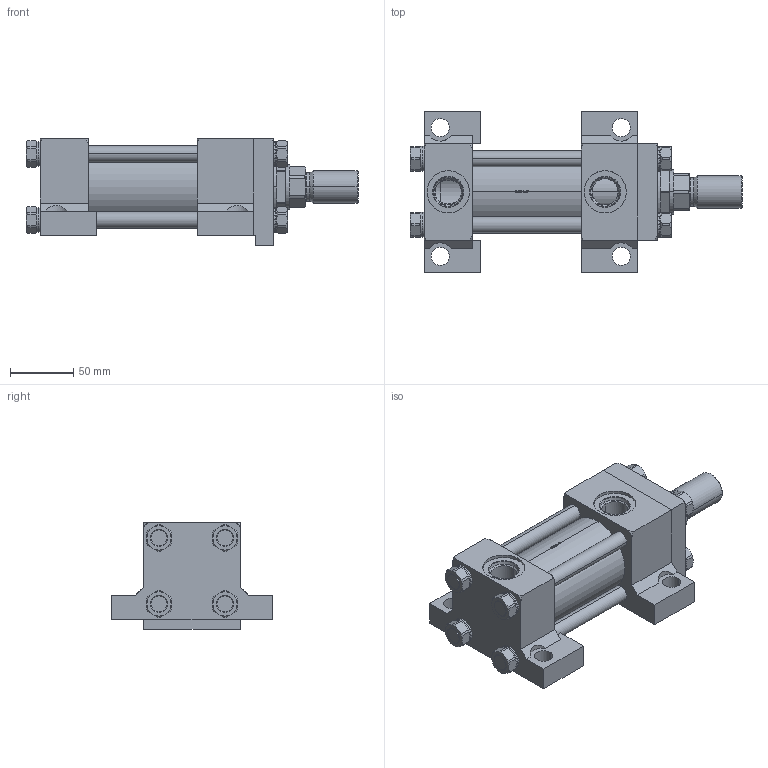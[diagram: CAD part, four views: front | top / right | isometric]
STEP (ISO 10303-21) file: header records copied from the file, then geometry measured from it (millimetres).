
FILE_DESCRIPTION (( 'STEP AP214' ), '1' );
FILE_NAME ('2.00CP2HHNAT124A2.000.step', '2026-03-26T21:16:31', ( '' ), ( '' ), 'SwSTEP 2.0', 'SolidWorks 2023', '' );
FILE_SCHEMA (( 'AUTOMOTIVE_DESIGN' ));
Length unit declared in the file: inch
Products named in the file (1): 2.00CP2HHNAT124A2.000
Bounding box: 261.94 x 127 x 84.14 mm (x, y, z)
Volume: 904449.5 mm3; surface area: 235878.3 mm2
Topology: 42 solids, 42 shells, 1211 faces, 3134 edges, 2016 vertices
Faces by surface type: plane 795, cylinder 217, cone 161, bspline 30, torus 8
Entity records: 54627 total; most frequent: CARTESIAN_POINT 10668, ORIENTED_EDGE 6268, DIRECTION 5148, EDGE_CURVE 3134, VERTEX_POINT 2016, AXIS2_PLACEMENT_3D 1750, VECTOR 1648, LINE 1648
